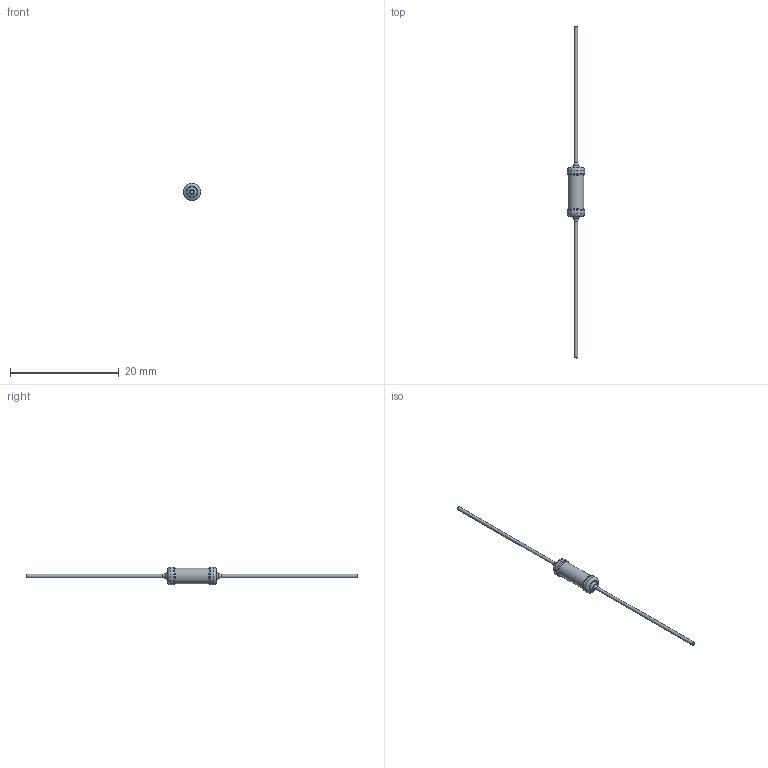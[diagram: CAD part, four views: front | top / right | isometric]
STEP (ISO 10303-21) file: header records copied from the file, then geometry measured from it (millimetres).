
FILE_DESCRIPTION(('STEP AP203'), '1');
FILE_NAME('Ð1-154_1', '', ('UNSPECIFIED'), ('UNSPECIFIED'), 'ASCON STEP Converter 1.6', 'ASCON Math Kernel', '');
FILE_SCHEMA(('CONFIG_CONTROL_DESIGN'));
Length unit declared in the file: millimetre
Bounding box: 3.2 x 60.99 x 3.2 mm (x, y, z)
Volume: 74.6 mm3; surface area: 192.9 mm2
Topology: 1 solids, 1 shells, 19 faces, 47 edges, 32 vertices
Faces by surface type: torus 8, cylinder 5, plane 4, cone 2
Full cylindrical faces by diameter (mm): 0.6 x2, 2.8 x1, 3.2 x2
Entity records: 710 total; most frequent: DIRECTION 104, CARTESIAN_POINT 84, ORIENTED_EDGE 64, AXIS2_PLACEMENT_3D 52, EDGE_LOOP 36, EDGE_CURVE 32, VERTEX_POINT 32, CIRCLE 32
